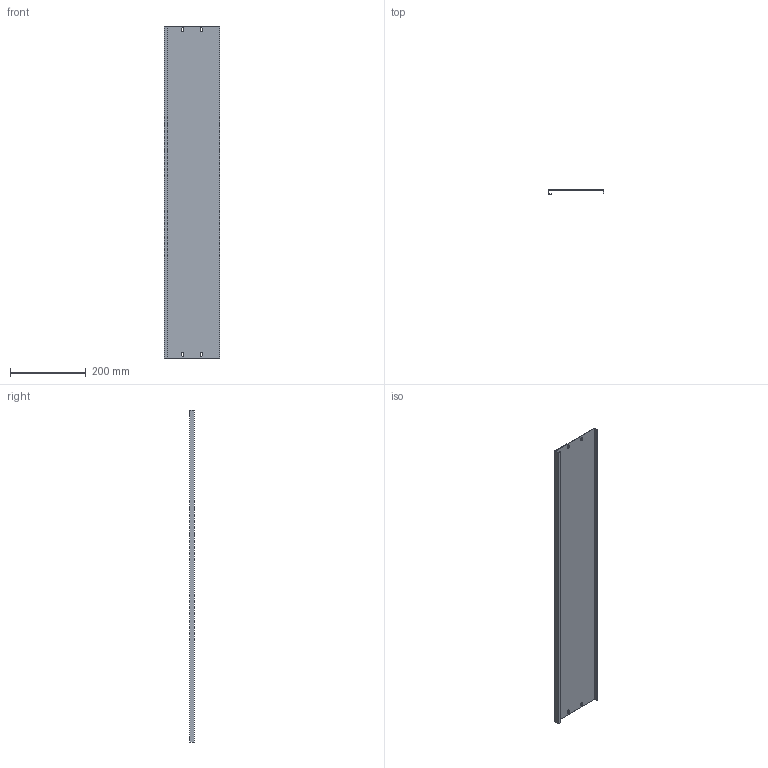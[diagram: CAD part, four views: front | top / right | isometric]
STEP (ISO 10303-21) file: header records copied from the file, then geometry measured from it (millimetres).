
FILE_DESCRIPTION (( 'STEP AP214' ), '1' );
FILE_NAME ('FO-00-PVS-015-100 Ïëàñòðîí ãëóõîé âíóòðåííèé 150õ1000.STEP', '2025-08-26T10:32:34', ( '' ), ( '' ), 'SwSTEP 2.0', 'SolidWorks 2023', '' );
FILE_SCHEMA (( 'AUTOMOTIVE_DESIGN' ));
Length unit declared in the file: millimetre
Products named in the file (1): FO-00-PVS-015-100 Пластрон глухой внутренний 150х1000
Bounding box: 148 x 12.5 x 879 mm (x, y, z)
Volume: 229062.1 mm3; surface area: 308743.1 mm2
Topology: 1 solids, 1 shells, 42 faces, 120 edges, 80 vertices
Faces by surface type: plane 30, cylinder 12
Entity records: 1407 total; most frequent: CARTESIAN_POINT 243, ORIENTED_EDGE 240, DIRECTION 230, EDGE_CURVE 120, VECTOR 96, LINE 96, VERTEX_POINT 80, AXIS2_PLACEMENT_3D 67
